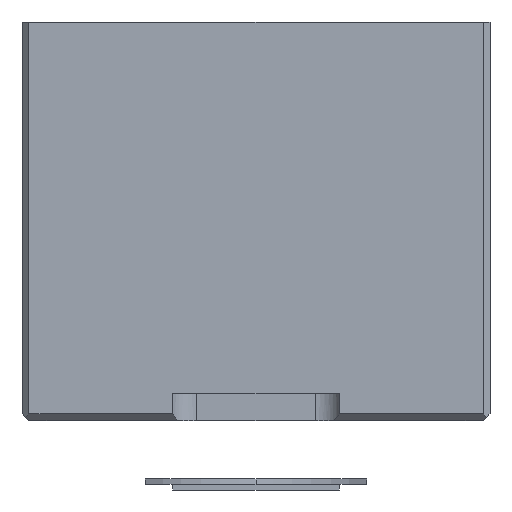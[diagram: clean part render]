
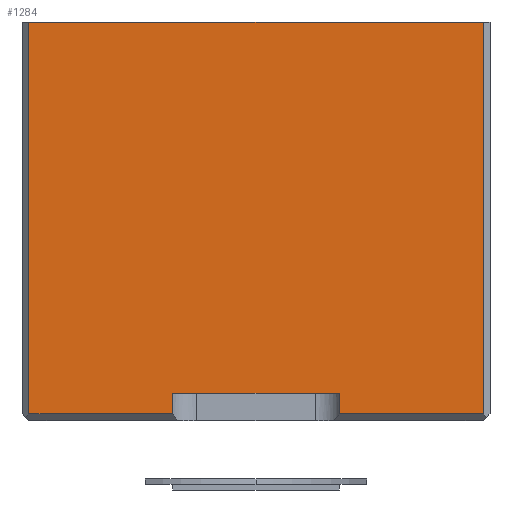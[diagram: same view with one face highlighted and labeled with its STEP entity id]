
A CAD part, front view. The second image highlights one B-rep face of the part: STEP entity #1284.
In plain terms, the highlighted planar face has unit normal (0, -1, 0).
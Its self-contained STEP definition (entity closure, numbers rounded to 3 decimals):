
#684=FACE_OUTER_BOUND('',#2750,.T.);
#1284=ADVANCED_FACE('',(#684),#1903,.T.);
#1903=PLANE('',#11875);
#2750=EDGE_LOOP('',(#5475,#5476,#5477,#5478,#5479,#5480,#5481,#5482));
#5475=ORIENTED_EDGE('',*,*,#8282,.T.);
#5476=ORIENTED_EDGE('',*,*,#8298,.T.);
#5477=ORIENTED_EDGE('',*,*,#8299,.T.);
#5478=ORIENTED_EDGE('',*,*,#8300,.F.);
#5479=ORIENTED_EDGE('',*,*,#8301,.T.);
#5480=ORIENTED_EDGE('',*,*,#8302,.T.);
#5481=ORIENTED_EDGE('',*,*,#8303,.T.);
#5482=ORIENTED_EDGE('',*,*,#8304,.T.);
#6851=VERTEX_POINT('',#17560);
#6852=VERTEX_POINT('',#17562);
#6867=VERTEX_POINT('',#17597);
#6868=VERTEX_POINT('',#17599);
#6869=VERTEX_POINT('',#17601);
#6870=VERTEX_POINT('',#17603);
#6871=VERTEX_POINT('',#17605);
#6872=VERTEX_POINT('',#17607);
#8282=EDGE_CURVE('',#6852,#6851,#9769,.T.);
#8298=EDGE_CURVE('',#6851,#6867,#9784,.T.);
#8299=EDGE_CURVE('',#6867,#6868,#9785,.T.);
#8300=EDGE_CURVE('',#6869,#6868,#9786,.T.);
#8301=EDGE_CURVE('',#6869,#6870,#9787,.T.);
#8302=EDGE_CURVE('',#6870,#6871,#9788,.T.);
#8303=EDGE_CURVE('',#6871,#6872,#9789,.T.);
#8304=EDGE_CURVE('',#6872,#6852,#9790,.T.);
#9769=LINE('',#17561,#11179);
#9784=LINE('',#17596,#11194);
#9785=LINE('',#17598,#11195);
#9786=LINE('',#17600,#11196);
#9787=LINE('',#17602,#11197);
#9788=LINE('',#17604,#11198);
#9789=LINE('',#17606,#11199);
#9790=LINE('',#17608,#11200);
#11179=VECTOR('',#14382,1.);
#11194=VECTOR('',#14399,1.);
#11195=VECTOR('',#14400,1.);
#11196=VECTOR('',#14401,1.);
#11197=VECTOR('',#14402,1.);
#11198=VECTOR('',#14403,1.);
#11199=VECTOR('',#14404,1.);
#11200=VECTOR('',#14405,1.);
#11875=AXIS2_PLACEMENT_3D('',#17609,#14406,#14407);
#14382=DIRECTION('',(-1.,0.,0.));
#14399=DIRECTION('',(0.,0.,-1.));
#14400=DIRECTION('',(1.,0.,0.));
#14401=DIRECTION('',(0.,0.,-1.));
#14402=DIRECTION('',(1.,0.,0.));
#14403=DIRECTION('',(0.,0.,-1.));
#14404=DIRECTION('',(1.,0.,0.));
#14405=DIRECTION('',(0.,0.,1.));
#14406=DIRECTION('',(0.,-1.,0.));
#14407=DIRECTION('',(0.,0.,-1.));
#17560=CARTESIAN_POINT('',(-4.2,-81.,16.7));
#17561=CARTESIAN_POINT('',(4.,-81.,16.7));
#17562=CARTESIAN_POINT('',(12.2,-81.,16.7));
#17596=CARTESIAN_POINT('',(-4.2,-81.,2.3));
#17597=CARTESIAN_POINT('',(-4.2,-81.,2.55));
#17598=CARTESIAN_POINT('',(4.,-81.,2.55));
#17599=CARTESIAN_POINT('',(1.,-81.,2.55));
#17600=CARTESIAN_POINT('',(1.,-81.,3.3));
#17601=CARTESIAN_POINT('',(1.,-81.,3.3));
#17602=CARTESIAN_POINT('',(1.,-81.,3.3));
#17603=CARTESIAN_POINT('',(7.,-81.,3.3));
#17604=CARTESIAN_POINT('',(7.,-81.,3.3));
#17605=CARTESIAN_POINT('',(7.,-81.,2.55));
#17606=CARTESIAN_POINT('',(4.,-81.,2.55));
#17607=CARTESIAN_POINT('',(12.2,-81.,2.55));
#17608=CARTESIAN_POINT('',(12.2,-81.,2.3));
#17609=CARTESIAN_POINT('',(4.,-81.,2.3));
